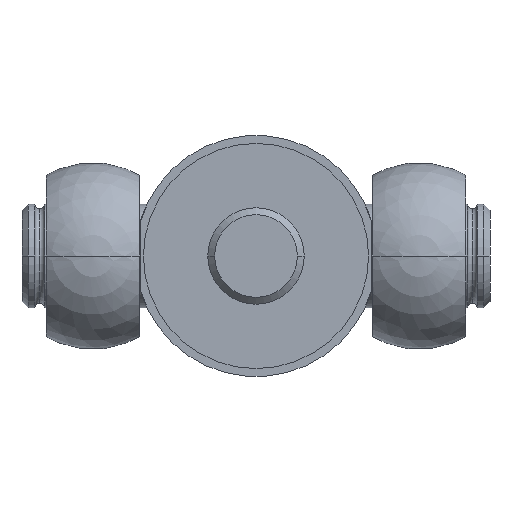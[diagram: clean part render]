
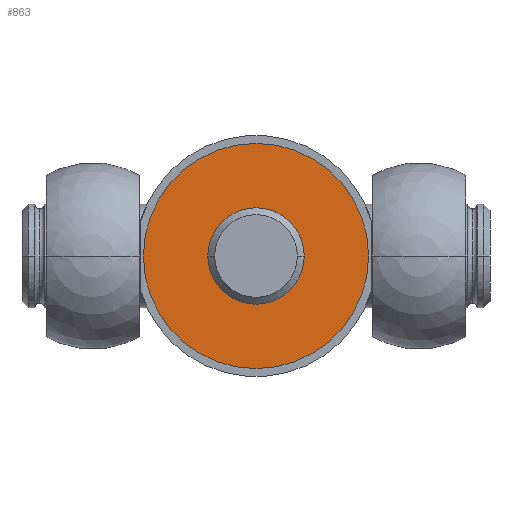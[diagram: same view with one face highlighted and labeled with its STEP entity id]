
A CAD part, front view. The second image highlights one B-rep face of the part: STEP entity #863.
In plain terms, the highlighted planar face has unit normal (0, -1, 0).
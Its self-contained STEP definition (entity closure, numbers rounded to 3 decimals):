
#465 = EDGE_CURVE( '', #913, #935, #1238, .T. );
#485 = EDGE_CURVE( '', #935, #913, #1258, .T. );
#631 = VERTEX_POINT( '', #1426 );
#633 = EDGE_CURVE( '', #825, #631, #1428, .T. );
#825 = VERTEX_POINT( '', #1643 );
#863 = ADVANCED_FACE( '', ( #1684, #1685 ), #1686, .T. );
#913 = VERTEX_POINT( '', #1741 );
#935 = VERTEX_POINT( '', #1765 );
#1053 = EDGE_CURVE( '', #631, #825, #1893, .T. );
#1238 = CIRCLE( '', #2092, 35. );
#1258 = CIRCLE( '', #2122, 35. );
#1426 = CARTESIAN_POINT( '', ( -15., 0., 0. ) );
#1428 = CIRCLE( '', #2378, 15. );
#1643 = CARTESIAN_POINT( '', ( 15., 0., 0. ) );
#1684 = FACE_OUTER_BOUND( '', #2725, .T. );
#1685 = FACE_BOUND( '', #2726, .T. );
#1686 = PLANE( '', #2727 );
#1741 = CARTESIAN_POINT( '', ( -35., 0., 0. ) );
#1765 = CARTESIAN_POINT( '', ( 35., 0., 0. ) );
#1893 = CIRCLE( '', #3118, 15. );
#2092 = AXIS2_PLACEMENT_3D( '', #3375, #3376, #3377 );
#2122 = AXIS2_PLACEMENT_3D( '', #3385, #3386, #3387 );
#2378 = AXIS2_PLACEMENT_3D( '', #3626, #3627, #3628 );
#2725 = EDGE_LOOP( '', ( #3957, #3958 ) );
#2726 = EDGE_LOOP( '', ( #3959, #3960 ) );
#2727 = AXIS2_PLACEMENT_3D( '', #3961, #3962, #3963 );
#3118 = AXIS2_PLACEMENT_3D( '', #4209, #4210, #4211 );
#3375 = CARTESIAN_POINT( '', ( 0., 0., 0. ) );
#3376 = DIRECTION( '', ( 0., 1., 0. ) );
#3377 = DIRECTION( '', ( 1., 0., 0. ) );
#3385 = CARTESIAN_POINT( '', ( 0., 0., 0. ) );
#3386 = DIRECTION( '', ( 0., 1., 0. ) );
#3387 = DIRECTION( '', ( 1., 0., 0. ) );
#3626 = CARTESIAN_POINT( '', ( 0., 0., 0. ) );
#3627 = DIRECTION( '', ( 0., 1., 0. ) );
#3628 = DIRECTION( '', ( 1., 0., 0. ) );
#3957 = ORIENTED_EDGE( '', *, *, #485, .F. );
#3958 = ORIENTED_EDGE( '', *, *, #465, .F. );
#3959 = ORIENTED_EDGE( '', *, *, #633, .T. );
#3960 = ORIENTED_EDGE( '', *, *, #1053, .T. );
#3961 = CARTESIAN_POINT( '', ( 25., 0., 0. ) );
#3962 = DIRECTION( '', ( 0., -1., 0. ) );
#3963 = DIRECTION( '', ( -1., 0., 0. ) );
#4209 = CARTESIAN_POINT( '', ( 0., 0., 0. ) );
#4210 = DIRECTION( '', ( 0., 1., 0. ) );
#4211 = DIRECTION( '', ( 1., 0., 0. ) );
